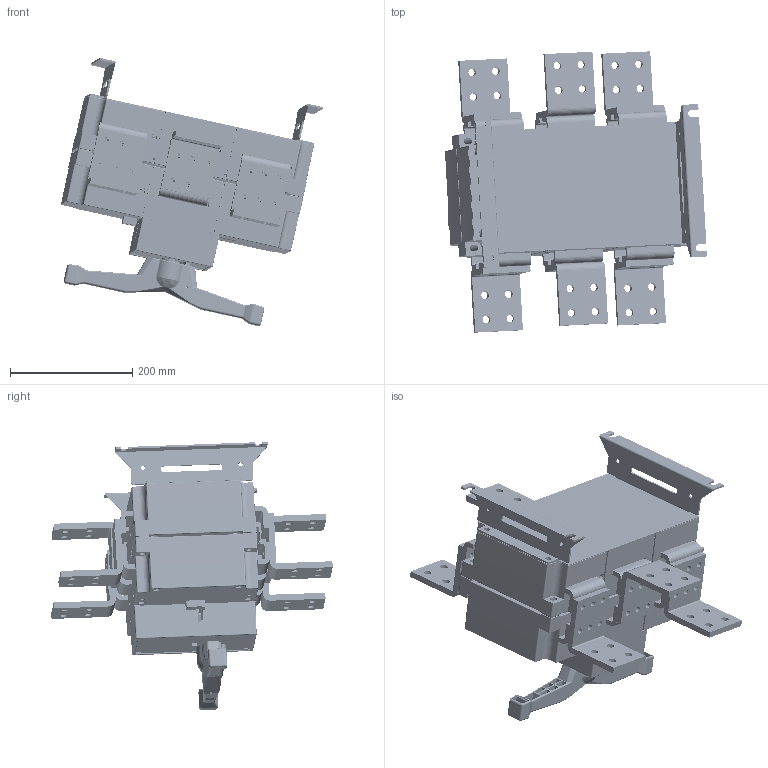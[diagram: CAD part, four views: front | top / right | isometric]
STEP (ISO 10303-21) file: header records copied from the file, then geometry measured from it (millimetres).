
FILE_DESCRIPTION (( 'STEP AP214' ), '1' );
FILE_NAME ('2500A軞蚾.STEP', '2017-08-25T09:29:27', ( 'PC' ), ( '' ), 'SwSTEP 2.0', 'SolidWorks 2014', '' );
FILE_SCHEMA (( 'AUTOMOTIVE_DESIGN' ));
Length unit declared in the file: millimetre
Products named in the file (34): HGL-1000蛌砃粣; 忒梟邡赽; HGL-1000苤裔1; HGL-400臏坶え; 鏢說え; 滅侂蹟譫M6; HGL-1000菁釱郪璃_ASM; 郪磁6X45; HGL-1000菁釱; 郪磁4X20; す齟6X20; HGL-1000縐釱郪璃_ASM; 2500A軞蚾; HGL-1000縐釱; HGL-1000雄揖芛; HGL-1000粟銅え; HGL-1000湮裔郪璃_ASM; HGL-1000湮裔; 2500A諉盄啣; HGL-1000芢啣郪璃_ASM; HGLZ1-1600-3假蚾褐; HGL-1000源粣; HGL-2000-3狟褲殤郪璃_ASM; HGL-1000賑啣; HGL-2500-3湮裔; 滅侂蹟譫M5; HGL-2000褲殤_ASM; 郪磁5X55; 2500A綴揖芛; 郪磁5X45; 2500Aヶ揖芛; HGL-1000忒梟郪璃_ASM; HGL-1000綻伎硌尨腑; HGL-1000忒梟
Assembly tree (118 placements, depth 5):
  2500A軞蚾
    HGL-2000褲殤_ASM
      郪磁4X20
      郪磁6X45  x8
      滅侂蹟譫M6  x8
      HGL-1000忒梟郪璃_ASM
        HGL-400臏坶え
        忒梟邡赽
        HGL-1000忒梟
      HGL-1000湮裔郪璃_ASM
        郪磁5X45  x2
        郪磁5X55  x2
        滅侂蹟譫M5  x4
        HGL-1000芢啣郪璃_ASM
          HGL-1000賑啣
          HGL-1000源粣
        HGL-1000湮裔
      HGL-1000縐釱郪璃_ASM
        HGL-1000粟銅え  x6
        HGL-1000雄揖芛  x6
        HGL-1000縐釱
      HGL-1000菁釱郪璃_ASM
        す齟6X20  x6
        HGL-1000菁釱
      鏢說え  x9
      HGL-1000苤裔1
      HGL-1000蛌砃粣
      HGL-1000綻伎硌尨腑
      2500Aヶ揖芛  x3
      2500A綴揖芛  x3
    HGL-2000-3狟褲殤郪璃_ASM
      郪磁6X45  x8
      滅侂蹟譫M6  x8
      HGL-1000縐釱郪璃_ASM
        HGL-1000粟銅え  x6
        HGL-1000雄揖芛  x6
        HGL-1000縐釱
      HGL-1000菁釱郪璃_ASM
        す齟6X20  x6
        HGL-1000菁釱
      鏢說え  x9
      2500Aヶ揖芛  x3
      2500A綴揖芛  x3
      HGL-2500-3湮裔
    HGLZ1-1600-3假蚾褐  x2
    2500A諉盄啣  x6
Bounding box: 428.9 x 460.62 x 439.01 mm (x, y, z)
Volume: 7548523.2 mm3; surface area: 2491445 mm2
Topology: 129 solids, 134 shells, 13007 faces, 37259 edges, 24494 vertices
Faces by surface type: cylinder 5819, plane 5246, bspline 1844, cone 96, torus 2
Entity records: 243234 total; most frequent: CARTESIAN_POINT 118596, ORIENTED_EDGE 27678, DIRECTION 22398, EDGE_CURVE 13839, VERTEX_POINT 8930, LINE 8380, VECTOR 8380, AXIS2_PLACEMENT_3D 7009
